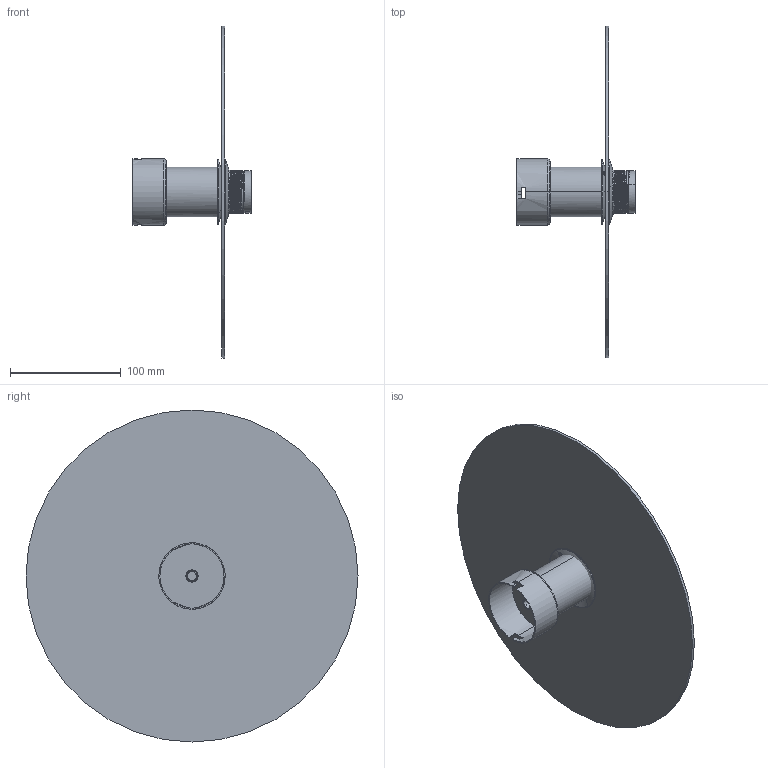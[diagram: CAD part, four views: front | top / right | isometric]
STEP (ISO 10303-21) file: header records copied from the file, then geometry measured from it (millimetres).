
FILE_DESCRIPTION (( 'STEP AP214' ), '1' );
FILE_NAME ('A1226.STEP', '2026-06-09T10:51:53', ( '' ), ( '' ), 'SwSTEP 2.0', 'SolidWorks 2023', '' );
FILE_SCHEMA (( 'AUTOMOTIVE_DESIGN' ));
Length unit declared in the file: inch
Products named in the file (1): A1226
Bounding box: 106.74 x 299.97 x 299.97 mm (x, y, z)
Volume: 234189.1 mm3; surface area: 194294 mm2
Topology: 4 solids, 4 shells, 229 faces, 641 edges, 421 vertices
Faces by surface type: bspline 223, plane 4, cylinder 2
Entity records: 31438 total; most frequent: CARTESIAN_POINT 27739, ORIENTED_EDGE 1280, EDGE_CURVE 640, B_SPLINE_CURVE_WITH_KNOTS 449, VERTEX_POINT 421, EDGE_LOOP 241, ADVANCED_FACE 229, FACE_OUTER_BOUND 229
